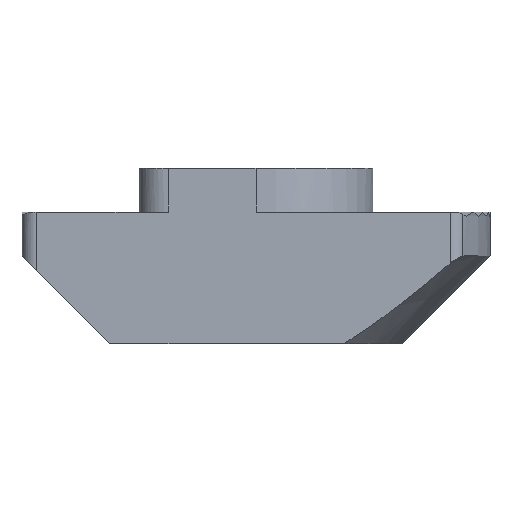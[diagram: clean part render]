
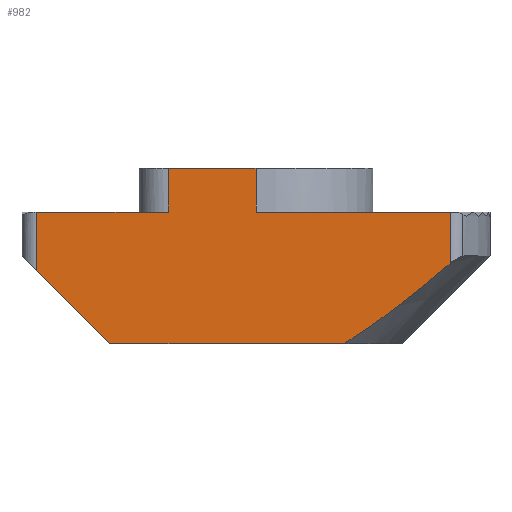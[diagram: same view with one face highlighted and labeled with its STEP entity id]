
A CAD part, front view. The second image highlights one B-rep face of the part: STEP entity #982.
In plain terms, the highlighted planar face has unit normal (0, -1, 0).
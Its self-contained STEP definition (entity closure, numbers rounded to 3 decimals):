
#12 = DIRECTION ( 'NONE',  ( 0.707, 0., -0.707 ) ) ;
#13 = CARTESIAN_POINT ( 'NONE',  ( -8., -4., 3. ) ) ;
#14 = DIRECTION ( 'NONE',  ( 0., 0., 1. ) ) ;
#15 = CARTESIAN_POINT ( 'NONE',  ( 6.633, -4., 4.5 ) ) ;
#21 = DIRECTION ( 'NONE',  ( 1., 0., 0. ) ) ;
#90 = CARTESIAN_POINT ( 'NONE',  ( -8., -4., 4.5 ) ) ;
#107 = DIRECTION ( 'NONE',  ( 1., 0., 0. ) ) ;
#112 = CARTESIAN_POINT ( 'NONE',  ( -8., -4., 0. ) ) ;
#145 = CARTESIAN_POINT ( 'NONE',  ( -4., -4., 6. ) ) ;
#150 = PLANE ( 'NONE',  #828 ) ;
#153 = CARTESIAN_POINT ( 'NONE',  ( 6.633, -4., 2.746 ) ) ;
#158 = DIRECTION ( 'NONE',  ( 0., 0., 1. ) ) ;
#159 = DIRECTION ( 'NONE',  ( 0., 1., 0. ) ) ;
#161 = CARTESIAN_POINT ( 'NONE',  ( -8., -4., 4.5 ) ) ;
#170 = CARTESIAN_POINT ( 'NONE',  ( 3.655, -4., 0.393 ) ) ;
#171 = CARTESIAN_POINT ( 'NONE',  ( 3., -4., 0. ) ) ;
#172 = CARTESIAN_POINT ( 'NONE',  ( 5.471, -4., 1.767 ) ) ;
#173 = CARTESIAN_POINT ( 'NONE',  ( 4.27, -4., 0.838 ) ) ;
#175 = CARTESIAN_POINT ( 'NONE',  ( 6.056, -4., 2.251 ) ) ;
#337 = DIRECTION ( 'NONE',  ( 1., 0., 0. ) ) ;
#392 = CARTESIAN_POINT ( 'NONE',  ( -8., -4., 4.5 ) ) ;
#393 = DIRECTION ( 'NONE',  ( 1., 0., 0. ) ) ;
#446 = VERTEX_POINT ( 'NONE', #1333 ) ;
#468 = ORIENTED_EDGE ( 'NONE', *, *, #1057, .F. ) ;
#516 = VERTEX_POINT ( 'NONE', #1312 ) ;
#523 = VERTEX_POINT ( 'NONE', #1307 ) ;
#528 = VERTEX_POINT ( 'NONE', #1305 ) ;
#534 = ORIENTED_EDGE ( 'NONE', *, *, #1077, .T. ) ;
#557 = ORIENTED_EDGE ( 'NONE', *, *, #1021, .F. ) ;
#598 = ORIENTED_EDGE ( 'NONE', *, *, #797, .T. ) ;
#625 = VERTEX_POINT ( 'NONE', #1274 ) ;
#658 = VERTEX_POINT ( 'NONE', #1261 ) ;
#665 = ORIENTED_EDGE ( 'NONE', *, *, #1080, .T. ) ;
#669 = VERTEX_POINT ( 'NONE', #1258 ) ;
#686 = VERTEX_POINT ( 'NONE', #1252 ) ;
#704 = VERTEX_POINT ( 'NONE', #1245 ) ;
#707 = VERTEX_POINT ( 'NONE', #1243 ) ;
#715 = ORIENTED_EDGE ( 'NONE', *, *, #1079, .T. ) ;
#780 = EDGE_CURVE ( 'NONE', #528, #446, #1703, .T. ) ;
#795 = EDGE_CURVE ( 'NONE', #658, #523, #1693, .T. ) ;
#797 = EDGE_CURVE ( 'NONE', #704, #516, #1692, .T. ) ;
#828 = AXIS2_PLACEMENT_3D ( 'NONE', #161, #159, #158 ) ;
#882 = VECTOR ( 'NONE', #12, 1000. ) ;
#885 = VECTOR ( 'NONE', #1400, 1000. ) ;
#893 = VECTOR ( 'NONE', #14, 1000. ) ;
#894 = VECTOR ( 'NONE', #393, 1000. ) ;
#901 = VECTOR ( 'NONE', #1128, 1000. ) ;
#910 = VECTOR ( 'NONE', #1406, 1000. ) ;
#953 = VECTOR ( 'NONE', #337, 1000. ) ;
#982 = ADVANCED_FACE ( 'NONE', ( #1665 ), #150, .F. ) ;
#1021 = EDGE_CURVE ( 'NONE', #704, #528, #1613, .T. ) ;
#1057 = EDGE_CURVE ( 'NONE', #446, #625, #1574, .T. ) ;
#1077 = EDGE_CURVE ( 'NONE', #686, #669, #1486, .T. ) ;
#1079 = EDGE_CURVE ( 'NONE', #669, #625, #1556, .T. ) ;
#1080 = EDGE_CURVE ( 'NONE', #523, #707, #1555, .T. ) ;
#1087 = EDGE_CURVE ( 'NONE', #658, #516, #1551, .T. ) ;
#1099 = EDGE_CURVE ( 'NONE', #707, #686, #1541, .T. ) ;
#1128 = DIRECTION ( 'NONE',  ( 0., 0., -1. ) ) ;
#1129 = CARTESIAN_POINT ( 'NONE',  ( 0., -4., 6. ) ) ;
#1243 = CARTESIAN_POINT ( 'NONE',  ( -5., -4., 0. ) ) ;
#1245 = CARTESIAN_POINT ( 'NONE',  ( -3., -4., 6. ) ) ;
#1252 = CARTESIAN_POINT ( 'NONE',  ( 3., -4., 0. ) ) ;
#1258 = CARTESIAN_POINT ( 'NONE',  ( 6.633, -4., 2.746 ) ) ;
#1261 = CARTESIAN_POINT ( 'NONE',  ( -7.5, -4., 4.5 ) ) ;
#1274 = CARTESIAN_POINT ( 'NONE',  ( 6.633, -4., 4.5 ) ) ;
#1305 = CARTESIAN_POINT ( 'NONE',  ( 0., -4., 6. ) ) ;
#1307 = CARTESIAN_POINT ( 'NONE',  ( -7.5, -4., 2.5 ) ) ;
#1312 = CARTESIAN_POINT ( 'NONE',  ( -3., -4., 4.5 ) ) ;
#1333 = CARTESIAN_POINT ( 'NONE',  ( 0., -4., 4.5 ) ) ;
#1400 = DIRECTION ( 'NONE',  ( 0., 0., -1. ) ) ;
#1401 = CARTESIAN_POINT ( 'NONE',  ( -3., -4., 4.5 ) ) ;
#1406 = DIRECTION ( 'NONE',  ( 0., 0., -1. ) ) ;
#1407 = CARTESIAN_POINT ( 'NONE',  ( -7.5, -4., 4.5 ) ) ;
#1450 = VECTOR ( 'NONE', #107, 1000. ) ;
#1482 = VECTOR ( 'NONE', #21, 1000. ) ;
#1486 = B_SPLINE_CURVE_WITH_KNOTS ( 'NONE', 3,
 ( #171, #170, #173, #172, #175, #153 ),
 .UNSPECIFIED., .F., .F.,
 ( 4, 2, 4 ),
 ( 0., 0.002, 0.005 ),
 .UNSPECIFIED. ) ;
#1541 = LINE ( 'NONE', #112, #1450 ) ;
#1551 = LINE ( 'NONE', #90, #1482 ) ;
#1555 = LINE ( 'NONE', #13, #882 ) ;
#1556 = LINE ( 'NONE', #15, #893 ) ;
#1574 = LINE ( 'NONE', #392, #894 ) ;
#1613 = LINE ( 'NONE', #145, #953 ) ;
#1665 = FACE_OUTER_BOUND ( 'NONE', #1773, .T. ) ;
#1692 = LINE ( 'NONE', #1401, #885 ) ;
#1693 = LINE ( 'NONE', #1407, #910 ) ;
#1703 = LINE ( 'NONE', #1129, #901 ) ;
#1773 = EDGE_LOOP ( 'NONE', ( #557, #598, #1822, #1837, #665, #1809, #534, #715, #468, #1783 ) ) ;
#1783 = ORIENTED_EDGE ( 'NONE', *, *, #780, .F. ) ;
#1809 = ORIENTED_EDGE ( 'NONE', *, *, #1099, .T. ) ;
#1822 = ORIENTED_EDGE ( 'NONE', *, *, #1087, .F. ) ;
#1837 = ORIENTED_EDGE ( 'NONE', *, *, #795, .T. ) ;
